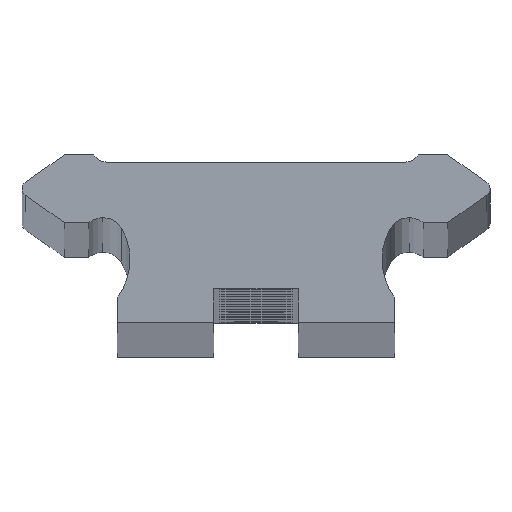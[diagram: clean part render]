
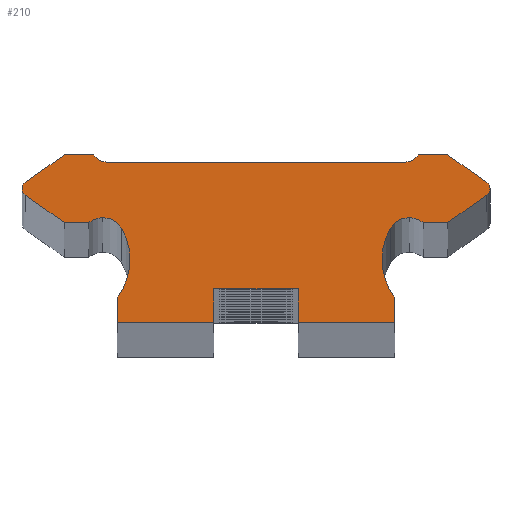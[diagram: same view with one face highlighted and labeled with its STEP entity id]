
A CAD part, top view. The second image highlights one B-rep face of the part: STEP entity #210.
In plain terms, the highlighted planar face has unit normal (0, 0, 1).
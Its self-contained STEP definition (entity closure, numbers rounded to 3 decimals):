
#210=ADVANCED_FACE('',(#546),#547,.T.);
#546=FACE_OUTER_BOUND('',#883,.T.);
#547=PLANE('',#884);
#883=EDGE_LOOP('',(#1916,#1917,#1918,#1919,#1920,#1921,#1922,#1923,#1924,#1925,#1926,#1927,#1928,#1929,#1930,#1931,#1932,#1933,#1934,#1935,#1936,#1937,#1938,#1939,#1940,#1941,#1942,#1943,#1944,#1945));
#884=AXIS2_PLACEMENT_3D('',#1946,#1947,#1948);
#1916=ORIENTED_EDGE('',*,*,#2250,.F.);
#1917=ORIENTED_EDGE('',*,*,#2322,.F.);
#1918=ORIENTED_EDGE('',*,*,#2319,.F.);
#1919=ORIENTED_EDGE('',*,*,#2316,.F.);
#1920=ORIENTED_EDGE('',*,*,#2313,.F.);
#1921=ORIENTED_EDGE('',*,*,#2310,.F.);
#1922=ORIENTED_EDGE('',*,*,#2307,.F.);
#1923=ORIENTED_EDGE('',*,*,#1983,.F.);
#1924=ORIENTED_EDGE('',*,*,#2306,.F.);
#1925=ORIENTED_EDGE('',*,*,#2302,.F.);
#1926=ORIENTED_EDGE('',*,*,#2299,.F.);
#1927=ORIENTED_EDGE('',*,*,#2296,.F.);
#1928=ORIENTED_EDGE('',*,*,#2293,.F.);
#1929=ORIENTED_EDGE('',*,*,#2290,.F.);
#1930=ORIENTED_EDGE('',*,*,#1989,.F.);
#1931=ORIENTED_EDGE('',*,*,#2288,.F.);
#1932=ORIENTED_EDGE('',*,*,#2285,.F.);
#1933=ORIENTED_EDGE('',*,*,#2282,.F.);
#1934=ORIENTED_EDGE('',*,*,#2279,.F.);
#1935=ORIENTED_EDGE('',*,*,#2276,.F.);
#1936=ORIENTED_EDGE('',*,*,#2273,.F.);
#1937=ORIENTED_EDGE('',*,*,#2270,.F.);
#1938=ORIENTED_EDGE('',*,*,#1991,.F.);
#1939=ORIENTED_EDGE('',*,*,#2269,.F.);
#1940=ORIENTED_EDGE('',*,*,#2265,.F.);
#1941=ORIENTED_EDGE('',*,*,#2262,.F.);
#1942=ORIENTED_EDGE('',*,*,#2259,.F.);
#1943=ORIENTED_EDGE('',*,*,#2256,.F.);
#1944=ORIENTED_EDGE('',*,*,#2253,.F.);
#1945=ORIENTED_EDGE('',*,*,#1997,.F.);
#1946=CARTESIAN_POINT('',(0.,8.793,1886.0));
#1947=DIRECTION('',(0.0,0.0,1.0));
#1948=DIRECTION('',(1.0,0.0,0.0));
#1983=EDGE_CURVE('',#2324,#2327,#2328,.T.);
#1989=EDGE_CURVE('',#2337,#2333,#2339,.T.);
#1991=EDGE_CURVE('',#2340,#2343,#2344,.T.);
#1997=EDGE_CURVE('',#2353,#2349,#2355,.T.);
#2250=EDGE_CURVE('',#2776,#2353,#2777,.T.);
#2253=EDGE_CURVE('',#2349,#2781,#2782,.T.);
#2256=EDGE_CURVE('',#2781,#2786,#2787,.T.);
#2259=EDGE_CURVE('',#2786,#2791,#2792,.T.);
#2262=EDGE_CURVE('',#2791,#2796,#2797,.T.);
#2265=EDGE_CURVE('',#2796,#2801,#2802,.T.);
#2269=EDGE_CURVE('',#2801,#2340,#2807,.T.);
#2270=EDGE_CURVE('',#2343,#2808,#2809,.T.);
#2273=EDGE_CURVE('',#2808,#2813,#2814,.T.);
#2276=EDGE_CURVE('',#2813,#2818,#2819,.T.);
#2279=EDGE_CURVE('',#2818,#2823,#2824,.T.);
#2282=EDGE_CURVE('',#2823,#2828,#2829,.T.);
#2285=EDGE_CURVE('',#2828,#2833,#2834,.T.);
#2288=EDGE_CURVE('',#2833,#2337,#2838,.T.);
#2290=EDGE_CURVE('',#2333,#2840,#2841,.T.);
#2293=EDGE_CURVE('',#2840,#2845,#2846,.T.);
#2296=EDGE_CURVE('',#2845,#2850,#2851,.T.);
#2299=EDGE_CURVE('',#2850,#2855,#2856,.T.);
#2302=EDGE_CURVE('',#2855,#2860,#2861,.T.);
#2306=EDGE_CURVE('',#2860,#2324,#2866,.T.);
#2307=EDGE_CURVE('',#2327,#2867,#2868,.T.);
#2310=EDGE_CURVE('',#2867,#2872,#2873,.T.);
#2313=EDGE_CURVE('',#2872,#2877,#2878,.T.);
#2316=EDGE_CURVE('',#2877,#2882,#2883,.T.);
#2319=EDGE_CURVE('',#2882,#2887,#2888,.T.);
#2322=EDGE_CURVE('',#2887,#2776,#2892,.T.);
#2324=VERTEX_POINT('',#2894);
#2327=VERTEX_POINT('',#2898);
#2328=CIRCLE('',#2899,6.105);
#2333=VERTEX_POINT('',#2905);
#2337=VERTEX_POINT('',#2910);
#2339=CIRCLE('',#2913,0.76);
#2340=VERTEX_POINT('',#2914);
#2343=VERTEX_POINT('',#2918);
#2344=CIRCLE('',#2919,0.76);
#2349=VERTEX_POINT('',#2925);
#2353=VERTEX_POINT('',#2930);
#2355=CIRCLE('',#2933,6.105);
#2776=VERTEX_POINT('',#3438);
#2777=LINE('',#3439,#3440);
#2781=VERTEX_POINT('',#3446);
#2782=CIRCLE('',#3447,6.105);
#2786=VERTEX_POINT('',#3452);
#2787=CIRCLE('',#3453,2.0);
#2791=VERTEX_POINT('',#3458);
#2792=CIRCLE('',#3459,2.275);
#2796=VERTEX_POINT('',#3464);
#2797=LINE('',#3465,#3466);
#2801=VERTEX_POINT('',#3472);
#2802=LINE('',#3473,#3474);
#2807=CIRCLE('',#3481,0.76);
#2808=VERTEX_POINT('',#3482);
#2809=LINE('',#3483,#3484);
#2813=VERTEX_POINT('',#3490);
#2814=LINE('',#3491,#3492);
#2818=VERTEX_POINT('',#3498);
#2819=CIRCLE('',#3499,1.5);
#2823=VERTEX_POINT('',#3504);
#2824=LINE('',#3505,#3506);
#2828=VERTEX_POINT('',#3512);
#2829=CIRCLE('',#3513,1.5);
#2833=VERTEX_POINT('',#3518);
#2834=LINE('',#3519,#3520);
#2838=LINE('',#3526,#3527);
#2840=VERTEX_POINT('',#3530);
#2841=CIRCLE('',#3531,0.76);
#2845=VERTEX_POINT('',#3536);
#2846=LINE('',#3537,#3538);
#2850=VERTEX_POINT('',#3544);
#2851=LINE('',#3545,#3546);
#2855=VERTEX_POINT('',#3552);
#2856=CIRCLE('',#3553,2.275);
#2860=VERTEX_POINT('',#3558);
#2861=CIRCLE('',#3559,2.0);
#2866=CIRCLE('',#3565,6.105);
#2867=VERTEX_POINT('',#3566);
#2868=LINE('',#3567,#3568);
#2872=VERTEX_POINT('',#3574);
#2873=LINE('',#3575,#3576);
#2877=VERTEX_POINT('',#3582);
#2878=LINE('',#3583,#3584);
#2882=VERTEX_POINT('',#3590);
#2883=LINE('',#3591,#3592);
#2887=VERTEX_POINT('',#3598);
#2888=LINE('',#3599,#3600);
#2892=LINE('',#3606,#3607);
#2894=CARTESIAN_POINT('',(11.974,5.976,1886.0));
#2898=CARTESIAN_POINT('',(13.2,2.307,1886.0));
#2899=AXIS2_PLACEMENT_3D('',#3611,#3612,#3613);
#2905=CARTESIAN_POINT('',(22.225,12.7,1886.0));
#2910=CARTESIAN_POINT('',(21.901,13.323,1886.0));
#2913=AXIS2_PLACEMENT_3D('',#3623,#3624,#3625);
#2914=CARTESIAN_POINT('',(-22.225,12.7,1886.0));
#2918=CARTESIAN_POINT('',(-21.901,13.323,1886.0));
#2919=AXIS2_PLACEMENT_3D('',#3627,#3628,#3629);
#2925=CARTESIAN_POINT('',(-11.974,5.976,1886.0));
#2930=CARTESIAN_POINT('',(-13.2,2.307,1886.0));
#2933=AXIS2_PLACEMENT_3D('',#3639,#3640,#3641);
#3438=CARTESIAN_POINT('',(-13.2,0.0,1886.0));
#3439=CARTESIAN_POINT('',(-13.2,0.0,1886.0));
#3440=VECTOR('',#4230,1.0);
#3446=CARTESIAN_POINT('',(-12.739,8.934,1886.0));
#3447=AXIS2_PLACEMENT_3D('',#4233,#4234,#4235);
#3452=CARTESIAN_POINT('',(-14.56,9.964,1886.0));
#3453=AXIS2_PLACEMENT_3D('',#4240,#4241,#4242);
#3458=CARTESIAN_POINT('',(-15.87,9.49,1886.0));
#3459=AXIS2_PLACEMENT_3D('',#4247,#4248,#4249);
#3464=CARTESIAN_POINT('',(-18.206,9.49,1886.0));
#3465=CARTESIAN_POINT('',(-18.206,9.49,1886.0));
#3466=VECTOR('',#4254,1.0);
#3472=CARTESIAN_POINT('',(-21.901,12.077,1886.0));
#3473=CARTESIAN_POINT('',(-21.901,12.077,1886.0));
#3474=VECTOR('',#4257,1.0);
#3481=AXIS2_PLACEMENT_3D('',#4263,#4264,#4265);
#3482=CARTESIAN_POINT('',(-18.206,15.91,1886.0));
#3483=CARTESIAN_POINT('',(-18.206,15.91,1886.0));
#3484=VECTOR('',#4266,1.0);
#3490=CARTESIAN_POINT('',(-15.41,15.91,1886.0));
#3491=CARTESIAN_POINT('',(-15.41,15.91,1886.0));
#3492=VECTOR('',#4269,1.0);
#3498=CARTESIAN_POINT('',(-14.141,15.21,1886.0));
#3499=AXIS2_PLACEMENT_3D('',#4272,#4273,#4274);
#3504=CARTESIAN_POINT('',(14.141,15.21,1886.0));
#3505=CARTESIAN_POINT('',(-14.141,15.21,1886.0));
#3506=VECTOR('',#4279,1.0);
#3512=CARTESIAN_POINT('',(15.41,15.91,1886.0));
#3513=AXIS2_PLACEMENT_3D('',#4282,#4283,#4284);
#3518=CARTESIAN_POINT('',(18.206,15.91,1886.0));
#3519=CARTESIAN_POINT('',(18.206,15.91,1886.0));
#3520=VECTOR('',#4289,1.0);
#3526=CARTESIAN_POINT('',(21.901,13.323,1886.0));
#3527=VECTOR('',#4292,1.0);
#3530=CARTESIAN_POINT('',(21.901,12.077,1886.0));
#3531=AXIS2_PLACEMENT_3D('',#4294,#4295,#4296);
#3536=CARTESIAN_POINT('',(18.206,9.49,1886.0));
#3537=CARTESIAN_POINT('',(18.206,9.49,1886.0));
#3538=VECTOR('',#4301,1.0);
#3544=CARTESIAN_POINT('',(15.87,9.49,1886.0));
#3545=CARTESIAN_POINT('',(15.87,9.49,1886.0));
#3546=VECTOR('',#4304,1.0);
#3552=CARTESIAN_POINT('',(14.56,9.964,1886.0));
#3553=AXIS2_PLACEMENT_3D('',#4307,#4308,#4309);
#3558=CARTESIAN_POINT('',(12.739,8.934,1886.0));
#3559=AXIS2_PLACEMENT_3D('',#4314,#4315,#4316);
#3565=AXIS2_PLACEMENT_3D('',#4324,#4325,#4326);
#3566=CARTESIAN_POINT('',(13.2,0.0,1886.0));
#3567=CARTESIAN_POINT('',(13.2,0.0,1886.0));
#3568=VECTOR('',#4327,1.0);
#3574=CARTESIAN_POINT('',(4.0,0.0,1886.0));
#3575=CARTESIAN_POINT('',(4.0,0.0,1886.0));
#3576=VECTOR('',#4330,1.0);
#3582=CARTESIAN_POINT('',(4.0,3.2,1886.0));
#3583=CARTESIAN_POINT('',(4.0,3.2,1886.0));
#3584=VECTOR('',#4333,1.0);
#3590=CARTESIAN_POINT('',(-4.0,3.2,1886.0));
#3591=CARTESIAN_POINT('',(-4.0,3.2,1886.0));
#3592=VECTOR('',#4336,1.0);
#3598=CARTESIAN_POINT('',(-4.0,0.0,1886.0));
#3599=CARTESIAN_POINT('',(-4.0,0.0,1886.0));
#3600=VECTOR('',#4339,1.0);
#3606=CARTESIAN_POINT('',(-13.2,0.0,1886.0));
#3607=VECTOR('',#4342,1.0);
#3611=CARTESIAN_POINT('',(18.08,5.976,1886.0));
#3612=DIRECTION('',(0.0,0.0,1.0));
#3613=DIRECTION('',(1.0,0.0,0.0));
#3623=CARTESIAN_POINT('',(21.465,12.7,1886.0));
#3624=DIRECTION('',(0.0,0.0,-1.0));
#3625=DIRECTION('',(1.0,0.0,0.0));
#3627=CARTESIAN_POINT('',(-21.465,12.7,1886.0));
#3628=DIRECTION('',(0.0,0.0,-1.0));
#3629=DIRECTION('',(1.0,0.0,0.0));
#3639=CARTESIAN_POINT('',(-18.08,5.976,1886.0));
#3640=DIRECTION('',(0.0,0.0,1.0));
#3641=DIRECTION('',(1.0,0.0,0.0));
#4230=DIRECTION('',(0.,1.0,0.0));
#4233=CARTESIAN_POINT('',(-18.08,5.976,1886.0));
#4234=DIRECTION('',(0.0,0.0,1.0));
#4235=DIRECTION('',(1.0,0.0,0.0));
#4240=CARTESIAN_POINT('',(-14.489,7.965,1886.0));
#4241=DIRECTION('',(0.0,0.0,1.0));
#4242=DIRECTION('',(1.0,0.0,0.0));
#4247=CARTESIAN_POINT('',(-14.479,7.69,1886.0));
#4248=DIRECTION('',(0.0,0.0,1.0));
#4249=DIRECTION('',(1.0,0.0,0.0));
#4254=DIRECTION('',(-1.0,-0.0,-0.0));
#4257=DIRECTION('',(-0.819,0.574,0.0));
#4263=CARTESIAN_POINT('',(-21.465,12.7,1886.0));
#4264=DIRECTION('',(0.0,0.0,-1.0));
#4265=DIRECTION('',(1.0,0.0,0.0));
#4266=DIRECTION('',(0.819,0.574,0.0));
#4269=DIRECTION('',(1.0,0.0,0.0));
#4272=CARTESIAN_POINT('',(-14.141,16.71,1886.0));
#4273=DIRECTION('',(0.0,0.0,1.0));
#4274=DIRECTION('',(1.0,0.0,0.0));
#4279=DIRECTION('',(1.0,0.0,0.0));
#4282=CARTESIAN_POINT('',(14.141,16.71,1886.0));
#4283=DIRECTION('',(0.0,0.0,1.0));
#4284=DIRECTION('',(1.0,0.0,0.0));
#4289=DIRECTION('',(1.0,0.0,0.0));
#4292=DIRECTION('',(0.819,-0.574,0.0));
#4294=CARTESIAN_POINT('',(21.465,12.7,1886.0));
#4295=DIRECTION('',(0.0,0.0,-1.0));
#4296=DIRECTION('',(1.0,0.0,0.0));
#4301=DIRECTION('',(-0.819,-0.574,-0.0));
#4304=DIRECTION('',(-1.0,-0.0,-0.0));
#4307=CARTESIAN_POINT('',(14.479,7.69,1886.0));
#4308=DIRECTION('',(0.0,0.0,1.0));
#4309=DIRECTION('',(1.0,0.0,0.0));
#4314=CARTESIAN_POINT('',(14.489,7.965,1886.0));
#4315=DIRECTION('',(0.0,0.0,1.0));
#4316=DIRECTION('',(1.0,0.0,0.0));
#4324=CARTESIAN_POINT('',(18.08,5.976,1886.0));
#4325=DIRECTION('',(0.0,0.0,1.0));
#4326=DIRECTION('',(1.0,0.0,0.0));
#4327=DIRECTION('',(0.,-1.0,-0.0));
#4330=DIRECTION('',(-1.0,-0.0,-0.0));
#4333=DIRECTION('',(0.0,1.0,0.0));
#4336=DIRECTION('',(-1.0,-0.0,-0.0));
#4339=DIRECTION('',(-0.0,-1.0,-0.0));
#4342=DIRECTION('',(-1.0,-0.0,-0.0));
